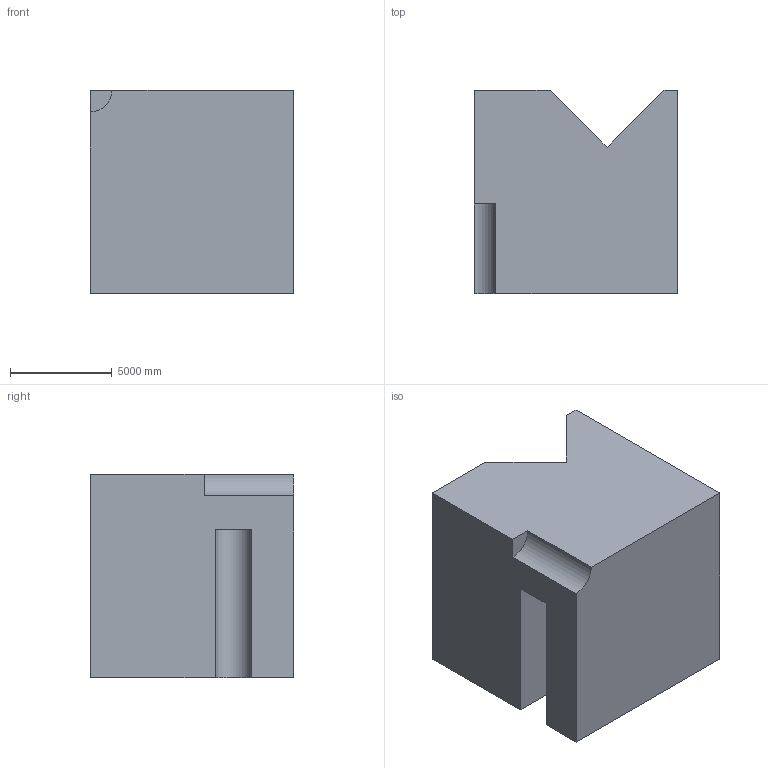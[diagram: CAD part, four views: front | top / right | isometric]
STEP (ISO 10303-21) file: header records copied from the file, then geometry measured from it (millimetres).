
FILE_DESCRIPTION (( 'STEP AP203' ), '1' );
FILE_NAME ('30.STEP', '2022-09-01T11:40:18', ( 'user' ), ( '' ), 'SwSTEP 2.0', 'SolidWorks 2021', '' );
FILE_SCHEMA (( 'CONFIG_CONTROL_DESIGN' ));
Length unit declared in the file: centimetre
Products named in the file (1): 30
Bounding box: 10000 x 10000 x 10000 mm (x, y, z)
Volume: 868221306378.2 mm3; surface area: 660329811.1 mm2
Topology: 1 solids, 1 shells, 21 faces, 51 edges, 34 vertices
Faces by surface type: plane 15, cylinder 6
Entity records: 694 total; most frequent: DIRECTION 107, CARTESIAN_POINT 107, ORIENTED_EDGE 102, EDGE_CURVE 51, LINE 39, VECTOR 39, AXIS2_PLACEMENT_3D 34, VERTEX_POINT 34
